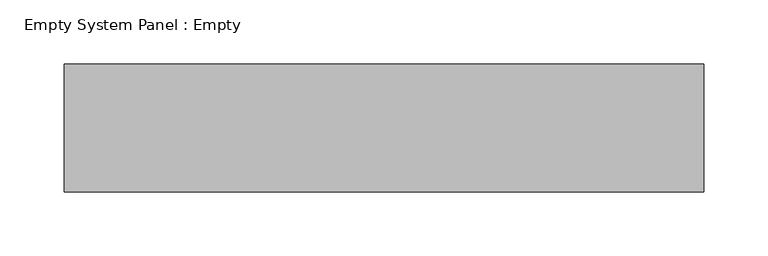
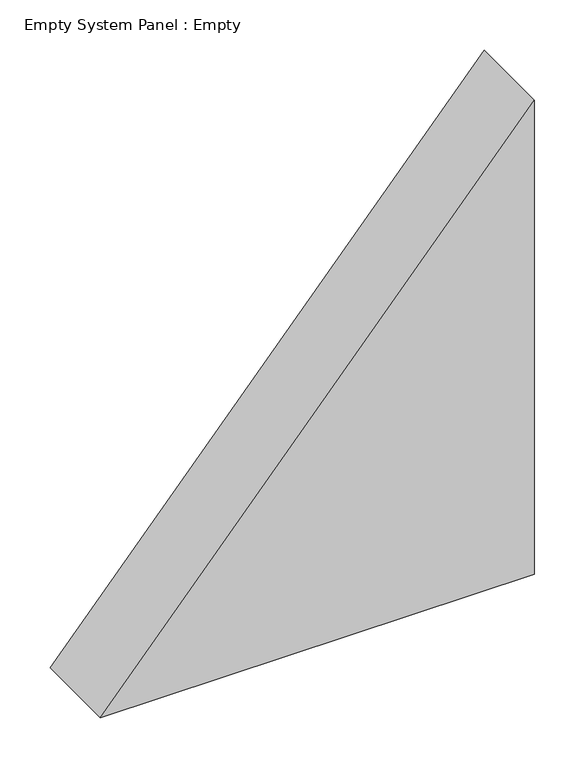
"""IFC4 building model written with IfcOpenShell, lengths in millimetres: plate geometry, Empty System Panel : Empty."""

from ifc_helpers import new_model, si_unit, frame, origin, place, context, project, spatial, polyline, outline, extrude, source, transform, mapped, element, save


def empty_system_panel_empty_38050489(model_context):
    return source(origin(), model_context, "Body", "SweptSolid", [
        extrude(outline(polyline([(0.0, -249.7473039), (0.0, 249.7473039), (576.6513276, 249.7473039), (0.0, -249.7473039)])), frame((0.0, -50.0, 0.0), z_axis=(0.0, 1.0, 0.0), x_axis=(0.0, 0.0, 1.0)), (0.0, 0.0, 1.0), 100.0),
    ])


if __name__ == "__main__":
    model = new_model("IFC4")
    model_context = context("Model", 3, world=origin())
    ifc_project = project(units=[si_unit("LENGTHUNIT", "METRE", prefix="MILLI")], contexts=[model_context])
    site = spatial("IfcSite", under=ifc_project)
    building = spatial("IfcBuilding", under=site)
    placement = place(None, origin())
    empty_system_panel_empty_shape = empty_system_panel_empty_38050489(model_context)
    element("IfcPlate", 1, ObjectType="Empty System Panel : Empty", at=placement, inside=building, context=model_context, shape_type="MappedRepresentation", body=[
        mapped(empty_system_panel_empty_shape, transform((0.0, 0.0, 0.0), x_axis=(1.0, 0.0, 0.0), y_axis=(0.0, 1.0, 0.0), z_axis=(0.0, 0.0, 1.0))),
    ])
    save(model, "model.ifc")
